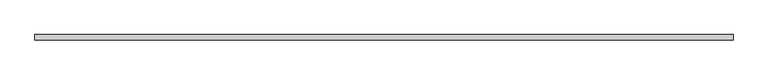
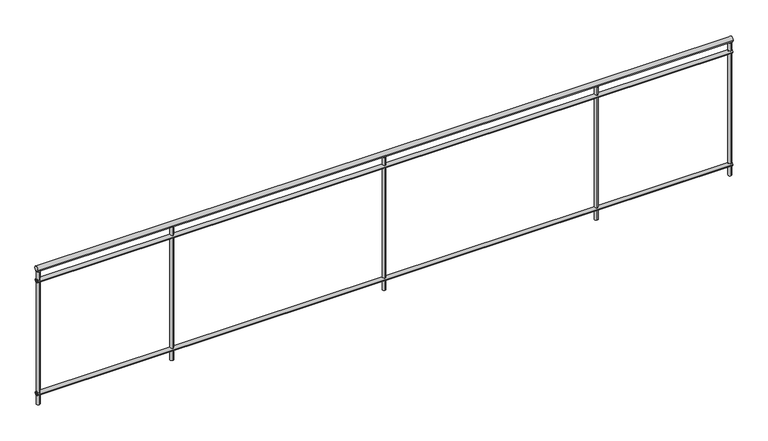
"""IFC4 building model written with IfcOpenShell, lengths in millimetres: railing geometry, バルコニー手摺."""

from ifc_helpers import new_model, si_unit, point, frame, frame_2d, origin, place, context, project, spatial, circle_curve, trimmed, segment, composite_curve, outline, extrude, source, transform, mapped, element, save


def railing_f43283ec(model_context):
    return source(origin(), model_context, "Body", "SweptSolid", [
        extrude(outline(composite_curve([segment(trimmed(circle_curve(frame_2d((10035.2598658, 1980.0)), 20.0), [point((10055.2598658, 1980.0))], [point((10015.2598658, 1980.0))], False, "CARTESIAN"), True, "CONTINUOUS"), segment(trimmed(circle_curve(frame_2d((10035.2598658, 1980.0)), 20.0), [point((10015.2598658, 1980.0))], [point((10055.2598658, 1980.0))], False, "CARTESIAN"), True, "CONTINUOUS")], self_intersect=False)), frame((9854.3805905, 0.0, 0.0), z_axis=(1.0, 0.0, 0.0), x_axis=(0.0, 1.0, 0.0)), (0.0, 0.0, 1.0), 5240.0),
        extrude(outline(composite_curve([segment(trimmed(circle_curve(frame_2d((10035.2598658, 1885.0)), 15.0), [point((10050.2598658, 1885.0))], [point((10020.2598658, 1885.0))], False, "CARTESIAN"), True, "CONTINUOUS"), segment(trimmed(circle_curve(frame_2d((10035.2598658, 1885.0)), 15.0), [point((10020.2598658, 1885.0))], [point((10050.2598658, 1885.0))], False, "CARTESIAN"), True, "CONTINUOUS")], self_intersect=False)), frame((9854.3805905, 0.0, 0.0), z_axis=(1.0, 0.0, 0.0), x_axis=(0.0, 1.0, 0.0)), (0.0, 0.0, 1.0), 5240.0),
        extrude(outline(composite_curve([segment(trimmed(circle_curve(frame_2d((10035.2598658, 985.0)), 15.0), [point((10050.2598658, 985.0))], [point((10020.2598658, 985.0))], False, "CARTESIAN"), True, "CONTINUOUS"), segment(trimmed(circle_curve(frame_2d((10035.2598658, 985.0)), 15.0), [point((10020.2598658, 985.0))], [point((10050.2598658, 985.0))], False, "CARTESIAN"), True, "CONTINUOUS")], self_intersect=False)), frame((9854.3805905, 0.0, 0.0), z_axis=(1.0, 0.0, 0.0), x_axis=(0.0, 1.0, 0.0)), (0.0, 0.0, 1.0), 5240.0),
        extrude(outline(composite_curve([segment(trimmed(circle_curve(frame_2d((10874.3805905, 10035.2598658)), 12.5), [point((10874.3805905, 10047.7598658))], [point((10874.3805905, 10022.7598658))], False, "CARTESIAN"), True, "CONTINUOUS"), segment(trimmed(circle_curve(frame_2d((10874.3805905, 10035.2598658)), 12.5), [point((10874.3805905, 10022.7598658))], [point((10874.3805905, 10047.7598658))], False, "CARTESIAN"), True, "CONTINUOUS")], self_intersect=False)), frame((0.0, 0.0, 900.0), z_axis=(0.0, 0.0, 1.0), x_axis=(1.0, 0.0, 0.0)), (0.0, 0.0, 1.0), 1060.0),
        extrude(outline(composite_curve([segment(trimmed(circle_curve(frame_2d((12474.3805905, 10035.2598658)), 12.5), [point((12474.3805905, 10047.7598658))], [point((12474.3805905, 10022.7598658))], False, "CARTESIAN"), True, "CONTINUOUS"), segment(trimmed(circle_curve(frame_2d((12474.3805905, 10035.2598658)), 12.5), [point((12474.3805905, 10022.7598658))], [point((12474.3805905, 10047.7598658))], False, "CARTESIAN"), True, "CONTINUOUS")], self_intersect=False)), frame((0.0, 0.0, 900.0), z_axis=(0.0, 0.0, 1.0), x_axis=(1.0, 0.0, 0.0)), (0.0, 0.0, 1.0), 1060.0),
        extrude(outline(composite_curve([segment(trimmed(circle_curve(frame_2d((14074.3805905, 10035.2598658)), 12.5), [point((14074.3805905, 10047.7598658))], [point((14074.3805905, 10022.7598658))], False, "CARTESIAN"), True, "CONTINUOUS"), segment(trimmed(circle_curve(frame_2d((14074.3805905, 10035.2598658)), 12.5), [point((14074.3805905, 10022.7598658))], [point((14074.3805905, 10047.7598658))], False, "CARTESIAN"), True, "CONTINUOUS")], self_intersect=False)), frame((0.0, 0.0, 900.0), z_axis=(0.0, 0.0, 1.0), x_axis=(1.0, 0.0, 0.0)), (0.0, 0.0, 1.0), 1060.0),
        extrude(outline(composite_curve([segment(trimmed(circle_curve(frame_2d((9866.5805905, 10035.2598658)), 12.5), [point((9866.5805905, 10047.7598658))], [point((9866.5805905, 10022.7598658))], False, "CARTESIAN"), True, "CONTINUOUS"), segment(trimmed(circle_curve(frame_2d((9866.5805905, 10035.2598658)), 12.5), [point((9866.5805905, 10022.7598658))], [point((9866.5805905, 10047.7598658))], False, "CARTESIAN"), True, "CONTINUOUS")], self_intersect=False)), frame((0.0, 0.0, 900.0), z_axis=(0.0, 0.0, 1.0), x_axis=(1.0, 0.0, 0.0)), (0.0, 0.0, 1.0), 1060.0),
        extrude(outline(composite_curve([segment(trimmed(circle_curve(frame_2d((15082.1805905, 10035.2598658)), 12.5), [point((15082.1805905, 10047.7598658))], [point((15082.1805905, 10022.7598658))], False, "CARTESIAN"), True, "CONTINUOUS"), segment(trimmed(circle_curve(frame_2d((15082.1805905, 10035.2598658)), 12.5), [point((15082.1805905, 10022.7598658))], [point((15082.1805905, 10047.7598658))], False, "CARTESIAN"), True, "CONTINUOUS")], self_intersect=False)), frame((0.0, 0.0, 900.0), z_axis=(0.0, 0.0, 1.0), x_axis=(1.0, 0.0, 0.0)), (0.0, 0.0, 1.0), 1060.0),
    ])


if __name__ == "__main__":
    model = new_model("IFC4")
    model_context = context("Model", 3, world=origin())
    ifc_project = project(units=[si_unit("LENGTHUNIT", "METRE", prefix="MILLI")], contexts=[model_context])
    site = spatial("IfcSite", under=ifc_project)
    building = spatial("IfcBuilding", under=site)
    placement = place(None, origin())
    railing_shape = railing_f43283ec(model_context)
    element("IfcRailing", 1, ObjectType="バルコニー手摺", at=placement, inside=building, context=model_context, shape_type="MappedRepresentation", body=[
        mapped(railing_shape, transform((0.0, 0.0, 0.0), x_axis=(1.0, 0.0, 0.0), y_axis=(0.0, 1.0, 0.0), z_axis=(0.0, 0.0, 1.0))),
    ])
    save(model, "model.ifc")
